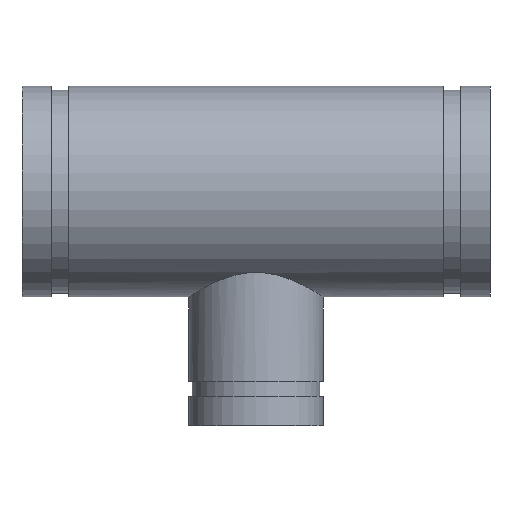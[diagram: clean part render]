
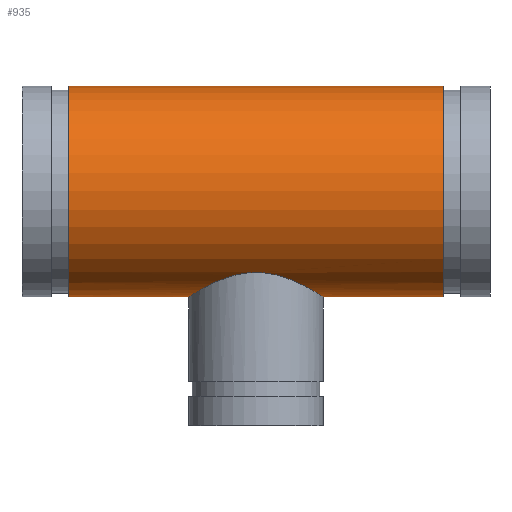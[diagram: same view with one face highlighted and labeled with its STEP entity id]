
A CAD part, top view. The second image highlights one B-rep face of the part: STEP entity #935.
In plain terms, the highlighted cylindrical face has radius 57.15 mm (diameter 114.3 mm), a full revolution.
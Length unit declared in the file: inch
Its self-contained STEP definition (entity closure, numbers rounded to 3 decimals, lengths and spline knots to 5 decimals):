
#61=FACE_BOUND('',#222,.T.);
#67=B_SPLINE_CURVE_WITH_KNOTS('',3,(#1807,#1808,#1809,#1810,#1811,#1812,
#1813,#1814,#1815,#1816,#1817,#1818,#1819,#1820,#1821,#1822,#1823,#1824),
 .UNSPECIFIED.,.F.,.F.,(4,2,2,2,2,2,2,2,4),(0.,0.71641,1.43281,
2.14922,2.86562,3.5757,4.28578,4.99586,
5.70593),.UNSPECIFIED.);
#68=B_SPLINE_CURVE_WITH_KNOTS('',3,(#1825,#1826,#1827,#1828,#1829,#1830,
#1831,#1832,#1833,#1834,#1835,#1836,#1837,#1838,#1839,#1840,#1841,#1842,
#1843,#1844,#1845,#1846,#1847,#1848,#1849,#1850,#1851,#1852,#1853,#1854,
#1855,#1856,#1857,#1858,#1859,#1860,#1861,#1862,#1863,#1864,#1865,#1866,
#1867,#1868,#1869,#1870,#1871,#1872,#1873,#1874),.UNSPECIFIED.,.F.,.F.,
(4,2,2,2,2,2,2,2,2,2,2,2,2,2,2,2,2,2,2,2,2,2,2,2,4),(5.70593,6.41601,
7.12609,7.83617,8.54625,9.26265,9.97906,
10.69546,11.41187,12.12827,12.84468,13.56108,
14.27749,14.98757,15.69765,16.40772,17.1178,
17.82788,18.53796,19.24804,19.95811,20.67452,
21.39092,22.10733,22.82374),.UNSPECIFIED.);
#81=CYLINDRICAL_SURFACE('',#1104,2.25);
#103=LINE('',#1804,#125);
#125=VECTOR('',#1432,2.25);
#171=FACE_OUTER_BOUND('',#221,.T.);
#221=EDGE_LOOP('',(#814,#815,#816,#817));
#222=EDGE_LOOP('',(#818,#819));
#326=CIRCLE('',#1087,2.25);
#337=CIRCLE('',#1103,2.25);
#424=VERTEX_POINT('',#1772);
#435=VERTEX_POINT('',#1801);
#436=VERTEX_POINT('',#1805);
#437=VERTEX_POINT('',#1806);
#552=EDGE_CURVE('',#424,#424,#326,.T.);
#565=EDGE_CURVE('',#435,#435,#337,.T.);
#566=EDGE_CURVE('',#435,#424,#103,.T.);
#567=EDGE_CURVE('',#436,#437,#67,.T.);
#568=EDGE_CURVE('',#437,#436,#68,.T.);
#814=ORIENTED_EDGE('',*,*,#565,.T.);
#815=ORIENTED_EDGE('',*,*,#566,.T.);
#816=ORIENTED_EDGE('',*,*,#552,.T.);
#817=ORIENTED_EDGE('',*,*,#566,.F.);
#818=ORIENTED_EDGE('',*,*,#567,.T.);
#819=ORIENTED_EDGE('',*,*,#568,.T.);
#935=ADVANCED_FACE('',(#171,#61),#81,.T.);
#1087=AXIS2_PLACEMENT_3D('',#1773,#1394,#1395);
#1103=AXIS2_PLACEMENT_3D('',#1802,#1428,#1429);
#1104=AXIS2_PLACEMENT_3D('',#1803,#1430,#1431);
#1394=DIRECTION('center_axis',(-1.,0.,0.));
#1395=DIRECTION('ref_axis',(0.,-1.,0.));
#1428=DIRECTION('center_axis',(1.,0.,0.));
#1429=DIRECTION('ref_axis',(0.,-1.,0.));
#1430=DIRECTION('center_axis',(-1.,0.,0.));
#1431=DIRECTION('ref_axis',(0.,-1.,0.));
#1432=DIRECTION('',(1.,0.,0.));
#1772=CARTESIAN_POINT('',(4.,2.25,0.));
#1773=CARTESIAN_POINT('Origin',(4.,0.,0.));
#1801=CARTESIAN_POINT('',(-4.,2.25,0.));
#1802=CARTESIAN_POINT('Origin',(-4.,0.,0.));
#1803=CARTESIAN_POINT('Origin',(5.,0.,0.));
#1804=CARTESIAN_POINT('',(5.,2.25,0.));
#1805=CARTESIAN_POINT('',(0.,-1.73092,-1.4375));
#1806=CARTESIAN_POINT('',(-1.4375,-2.25,0.));
#1807=CARTESIAN_POINT('Ctrl Pts',(0.,-1.73092,
-1.4375));
#1808=CARTESIAN_POINT('Ctrl Pts',(-0.09402,-1.73092,
-1.4375));
#1809=CARTESIAN_POINT('Ctrl Pts',(-0.18975,-1.73882,
-1.42815));
#1810=CARTESIAN_POINT('Ctrl Pts',(-0.37779,-1.76924,
-1.39028));
#1811=CARTESIAN_POINT('Ctrl Pts',(-0.47012,-1.79168,
-1.36179));
#1812=CARTESIAN_POINT('Ctrl Pts',(-0.64575,-1.84556,
-1.28783));
#1813=CARTESIAN_POINT('Ctrl Pts',(-0.72923,-1.87696,
-1.24229));
#1814=CARTESIAN_POINT('Ctrl Pts',(-0.88329,-1.94201,-1.13792));
#1815=CARTESIAN_POINT('Ctrl Pts',(-0.95388,-1.97562,
-1.07905));
#1816=CARTESIAN_POINT('Ctrl Pts',(-1.0785,-2.03872,-0.95443));
#1817=CARTESIAN_POINT('Ctrl Pts',(-1.13727,-2.07066,-0.88414));
#1818=CARTESIAN_POINT('Ctrl Pts',(-1.24184,-2.12988,-0.73001));
#1819=CARTESIAN_POINT('Ctrl Pts',(-1.28764,-2.15714,-0.64618));
#1820=CARTESIAN_POINT('Ctrl Pts',(-1.36195,-2.2023,-0.46975));
#1821=CARTESIAN_POINT('Ctrl Pts',(-1.39051,-2.22022,-0.37697));
#1822=CARTESIAN_POINT('Ctrl Pts',(-1.42829,-2.24408,-0.18869));
#1823=CARTESIAN_POINT('Ctrl Pts',(-1.4375,-2.25,-0.09319));
#1824=CARTESIAN_POINT('Ctrl Pts',(-1.4375,-2.25,0.));
#1825=CARTESIAN_POINT('Ctrl Pts',(-1.4375,-2.25,0.));
#1826=CARTESIAN_POINT('Ctrl Pts',(-1.4375,-2.25,0.09319));
#1827=CARTESIAN_POINT('Ctrl Pts',(-1.42829,-2.24408,0.18869));
#1828=CARTESIAN_POINT('Ctrl Pts',(-1.39051,-2.22022,0.37697));
#1829=CARTESIAN_POINT('Ctrl Pts',(-1.36195,-2.2023,0.46975));
#1830=CARTESIAN_POINT('Ctrl Pts',(-1.28764,-2.15714,0.64618));
#1831=CARTESIAN_POINT('Ctrl Pts',(-1.24184,-2.12988,0.73001));
#1832=CARTESIAN_POINT('Ctrl Pts',(-1.13727,-2.07066,0.88414));
#1833=CARTESIAN_POINT('Ctrl Pts',(-1.0785,-2.03872,0.95443));
#1834=CARTESIAN_POINT('Ctrl Pts',(-0.95388,-1.97562,
1.07905));
#1835=CARTESIAN_POINT('Ctrl Pts',(-0.88329,-1.94201,1.13792));
#1836=CARTESIAN_POINT('Ctrl Pts',(-0.72923,-1.87696,1.24229));
#1837=CARTESIAN_POINT('Ctrl Pts',(-0.64575,-1.84556,
1.28783));
#1838=CARTESIAN_POINT('Ctrl Pts',(-0.47012,-1.79168,
1.36179));
#1839=CARTESIAN_POINT('Ctrl Pts',(-0.37779,-1.76924,
1.39028));
#1840=CARTESIAN_POINT('Ctrl Pts',(-0.18975,-1.73882,
1.42815));
#1841=CARTESIAN_POINT('Ctrl Pts',(-0.09402,-1.73092,
1.4375));
#1842=CARTESIAN_POINT('Ctrl Pts',(0.09402,-1.73092,
1.4375));
#1843=CARTESIAN_POINT('Ctrl Pts',(0.18975,-1.73882,1.42815));
#1844=CARTESIAN_POINT('Ctrl Pts',(0.37779,-1.76924,1.39028));
#1845=CARTESIAN_POINT('Ctrl Pts',(0.47012,-1.79168,1.36179));
#1846=CARTESIAN_POINT('Ctrl Pts',(0.64575,-1.84556,1.28783));
#1847=CARTESIAN_POINT('Ctrl Pts',(0.72923,-1.87696,1.24229));
#1848=CARTESIAN_POINT('Ctrl Pts',(0.88329,-1.94201,1.13792));
#1849=CARTESIAN_POINT('Ctrl Pts',(0.95388,-1.97562,1.07905));
#1850=CARTESIAN_POINT('Ctrl Pts',(1.0785,-2.03872,0.95443));
#1851=CARTESIAN_POINT('Ctrl Pts',(1.13727,-2.07066,0.88414));
#1852=CARTESIAN_POINT('Ctrl Pts',(1.24184,-2.12988,0.73001));
#1853=CARTESIAN_POINT('Ctrl Pts',(1.28764,-2.15714,0.64618));
#1854=CARTESIAN_POINT('Ctrl Pts',(1.36195,-2.2023,0.46975));
#1855=CARTESIAN_POINT('Ctrl Pts',(1.39051,-2.22022,0.37697));
#1856=CARTESIAN_POINT('Ctrl Pts',(1.42829,-2.24408,0.18869));
#1857=CARTESIAN_POINT('Ctrl Pts',(1.4375,-2.25,0.09319));
#1858=CARTESIAN_POINT('Ctrl Pts',(1.4375,-2.25,-0.09319));
#1859=CARTESIAN_POINT('Ctrl Pts',(1.42829,-2.24408,-0.18869));
#1860=CARTESIAN_POINT('Ctrl Pts',(1.39051,-2.22022,-0.37697));
#1861=CARTESIAN_POINT('Ctrl Pts',(1.36195,-2.2023,-0.46975));
#1862=CARTESIAN_POINT('Ctrl Pts',(1.28764,-2.15714,-0.64618));
#1863=CARTESIAN_POINT('Ctrl Pts',(1.24184,-2.12988,-0.73001));
#1864=CARTESIAN_POINT('Ctrl Pts',(1.13727,-2.07066,-0.88414));
#1865=CARTESIAN_POINT('Ctrl Pts',(1.0785,-2.03872,-0.95443));
#1866=CARTESIAN_POINT('Ctrl Pts',(0.95388,-1.97562,-1.07905));
#1867=CARTESIAN_POINT('Ctrl Pts',(0.88329,-1.94201,-1.13792));
#1868=CARTESIAN_POINT('Ctrl Pts',(0.72923,-1.87696,-1.24229));
#1869=CARTESIAN_POINT('Ctrl Pts',(0.64575,-1.84556,-1.28783));
#1870=CARTESIAN_POINT('Ctrl Pts',(0.47012,-1.79168,-1.36179));
#1871=CARTESIAN_POINT('Ctrl Pts',(0.37779,-1.76924,-1.39028));
#1872=CARTESIAN_POINT('Ctrl Pts',(0.18975,-1.73882,-1.42815));
#1873=CARTESIAN_POINT('Ctrl Pts',(0.09402,-1.73092,
-1.4375));
#1874=CARTESIAN_POINT('Ctrl Pts',(0.,-1.73092,
-1.4375));
